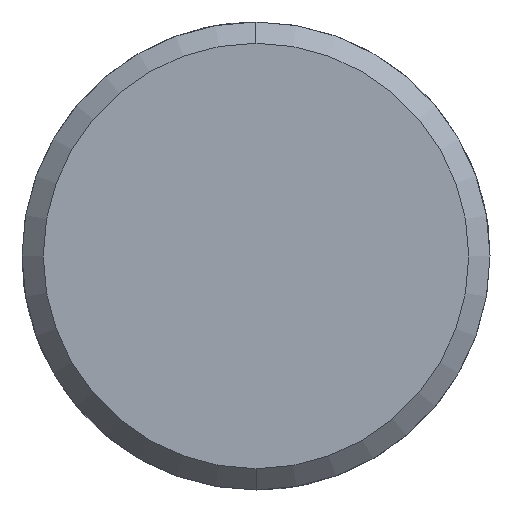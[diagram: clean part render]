
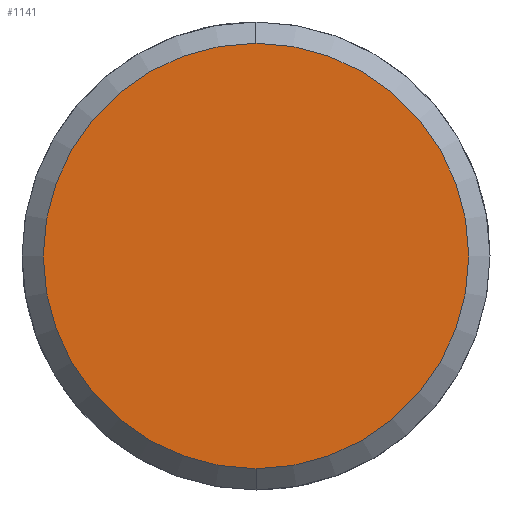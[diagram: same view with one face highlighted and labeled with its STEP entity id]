
A CAD part, left-side view. The second image highlights one B-rep face of the part: STEP entity #1141.
In plain terms, the highlighted planar face has unit normal (-1, 0, 0).
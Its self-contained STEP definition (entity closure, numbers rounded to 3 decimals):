
#1073=CARTESIAN_POINT('Vertex',(-5.,0.,-10.)) ;
#1076=CARTESIAN_POINT('Axis2P3D Location',(-5.,0.,0.)) ;
#1080=CARTESIAN_POINT('Vertex',(-5.,10.,0.)) ;
#1083=CARTESIAN_POINT('Axis2P3D Location',(-5.,0.,0.)) ;
#1087=CARTESIAN_POINT('Vertex',(-5.,0.,10.)) ;
#1109=CARTESIAN_POINT('Axis2P3D Location',(-5.,0.,0.)) ;
#1113=CARTESIAN_POINT('Vertex',(-5.,-10.,0.)) ;
#1116=CARTESIAN_POINT('Axis2P3D Location',(-5.,0.,0.)) ;
#1130=CARTESIAN_POINT('Axis2P3D Location',(-5.,0.,0.)) ;
#1077=DIRECTION('Axis2P3D Direction',(1.,0.,-0.)) ;
#1084=DIRECTION('Axis2P3D Direction',(1.,0.,-0.)) ;
#1110=DIRECTION('Axis2P3D Direction',(1.,0.,-0.)) ;
#1117=DIRECTION('Axis2P3D Direction',(1.,0.,-0.)) ;
#1131=DIRECTION('Axis2P3D Direction',(1.,0.,-0.)) ;
#1132=DIRECTION('Axis2P3D XDirection',(-0.,0.,-1.)) ;
#1078=AXIS2_PLACEMENT_3D('Circle Axis2P3D',#1076,#1077,$) ;
#1085=AXIS2_PLACEMENT_3D('Circle Axis2P3D',#1083,#1084,$) ;
#1111=AXIS2_PLACEMENT_3D('Circle Axis2P3D',#1109,#1110,$) ;
#1118=AXIS2_PLACEMENT_3D('Circle Axis2P3D',#1116,#1117,$) ;
#1133=AXIS2_PLACEMENT_3D('Plane Axis2P3D',#1130,#1131,#1132) ;
#1136=ORIENTED_EDGE('',*,*,#1082,.F.) ;
#1137=ORIENTED_EDGE('',*,*,#1120,.F.) ;
#1138=ORIENTED_EDGE('',*,*,#1115,.F.) ;
#1139=ORIENTED_EDGE('',*,*,#1089,.F.) ;
#1141=ADVANCED_FACE('351-12X36X90',(#1140),#1134,.F.) ;
#1079=CIRCLE('generated circle',#1078,10.) ;
#1086=CIRCLE('generated circle',#1085,10.) ;
#1112=CIRCLE('generated circle',#1111,10.) ;
#1119=CIRCLE('generated circle',#1118,10.) ;
#1082=EDGE_CURVE('',#1074,#1081,#1079,.T.) ;
#1089=EDGE_CURVE('',#1081,#1088,#1086,.T.) ;
#1115=EDGE_CURVE('',#1088,#1114,#1112,.T.) ;
#1120=EDGE_CURVE('',#1114,#1074,#1119,.T.) ;
#1135=EDGE_LOOP('',(#1136,#1137,#1138,#1139)) ;
#1140=FACE_OUTER_BOUND('',#1135,.T.) ;
#1134=PLANE('Plane',#1133) ;
#1074=VERTEX_POINT('',#1073) ;
#1081=VERTEX_POINT('',#1080) ;
#1088=VERTEX_POINT('',#1087) ;
#1114=VERTEX_POINT('',#1113) ;
